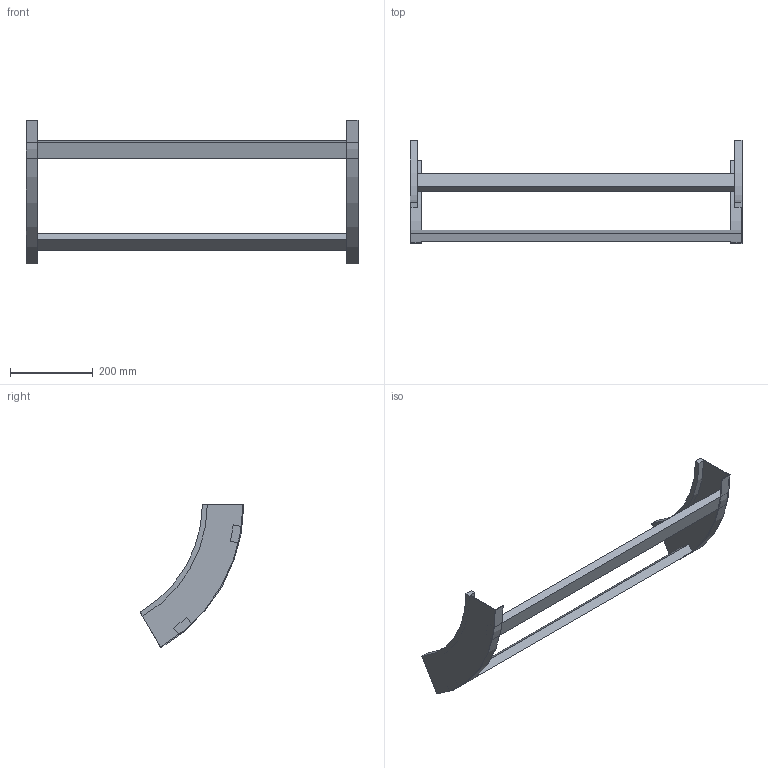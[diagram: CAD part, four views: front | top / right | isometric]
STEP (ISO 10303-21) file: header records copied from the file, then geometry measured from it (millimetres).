
FILE_DESCRIPTION (( 'STEP AP214' ), '1' );
FILE_NAME ('B2X40B3J800XX.step', '2025-03-20T10:15:47', ( '' ), ( '' ), 'SwSTEP 2.0', 'SolidWorks 2023', '' );
FILE_SCHEMA (( 'AUTOMOTIVE_DESIGN' ));
Length unit declared in the file: millimetre
Products named in the file (3): B2_LONGH.SALITA_60°_H112.5_R300; TRAVERSINO_800; B2X40B3J800XX
Assembly tree (4 placements, depth 2):
  B2X40B3J800XX
    B2_LONGH.SALITA_60°_H112.5_R300  x2
    TRAVERSINO_800  x2
Bounding box: 800 x 250 x 346.41 mm (x, y, z)
Volume: 1600960.7 mm3; surface area: 409471.3 mm2
Topology: 4 solids, 4 shells, 32 faces, 72 edges, 48 vertices
Faces by surface type: plane 24, cylinder 8
Entity records: 552 total; most frequent: DIRECTION 90, CARTESIAN_POINT 83, ORIENTED_EDGE 72, EDGE_CURVE 36, AXIS2_PLACEMENT_3D 31, VECTOR 28, LINE 28, VERTEX_POINT 24
